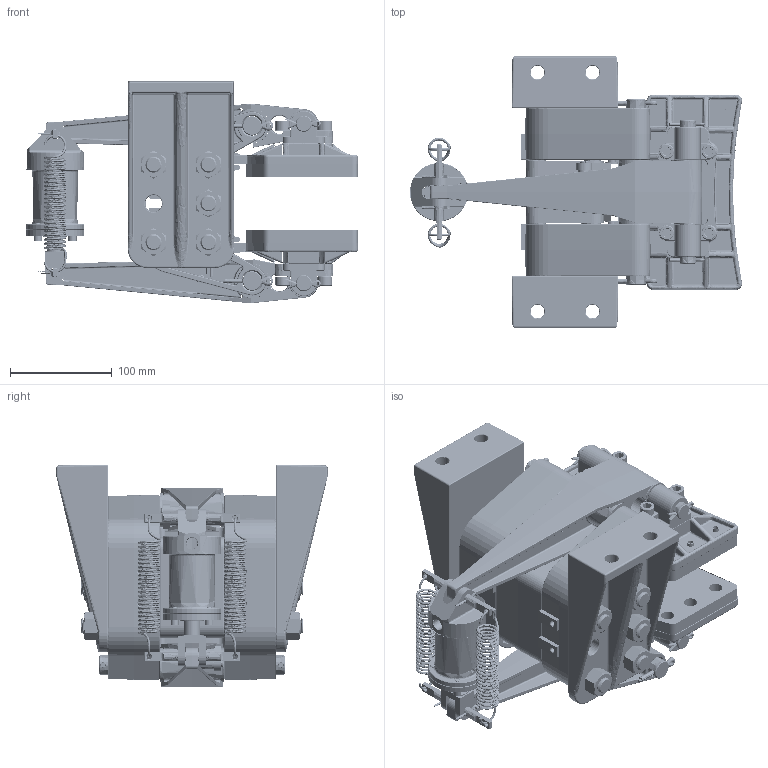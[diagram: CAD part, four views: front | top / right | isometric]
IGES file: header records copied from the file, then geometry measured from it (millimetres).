
Start section: SolidWorks IGES file using analytic representation for surfaces
Global section: file name: N:\3.Product\5000\models for website\5021-HW.IGS; native system: SolidWorks 2015; preprocessor: SolidWorks 2015; author: borica; date: 160503.160530; units: inch
Bounding box: 326.11 x 266.37 x 218.79 mm (x, y, z)
Surface area: 740908.1 mm2 (no closed solid volume)
Topology: 0 solids, 0 shells, 2971 faces, 52514 edges, 52473 vertices
Faces by surface type: revolution 1567, bspline 1404
